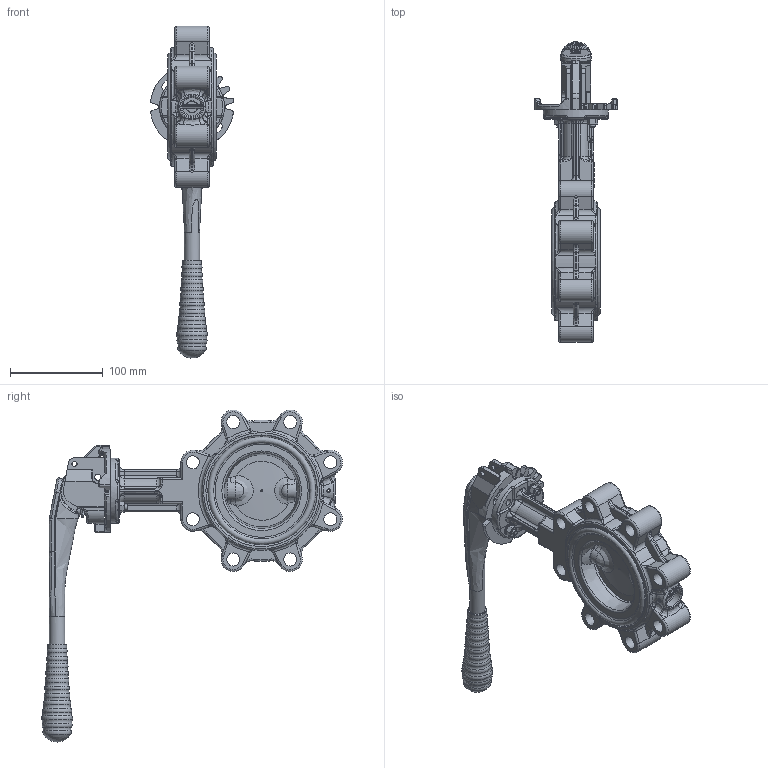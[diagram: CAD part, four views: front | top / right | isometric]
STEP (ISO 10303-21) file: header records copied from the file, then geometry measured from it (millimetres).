
FILE_DESCRIPTION((''),'2;1');
FILE_NAME('K:\Inventor\1 Artikel\10) Absperrklappen\10a) manuell\Chemvalve\844-GGG, CST-L\844-GGG, DN80\844-GGG, DN80, 3D\844-GGG, DN80, PN10-16, HH, 3D.stp','2019-08-13T12:56:05',('claudia'),(''),'Autodesk Inventor 2013','Autodesk Inventor 2013','');
FILE_SCHEMA(('AUTOMOTIVE_DESIGN { 1 0 10303 214 1 1 1 1 }'));
Length unit declared in the file: millimetre
Products named in the file (1): Bauteil30
Bounding box: 89.17 x 323.64 x 357.07 mm (x, y, z)
Surface area: 188088.8 mm2
Topology: 8 solids, 9 shells, 2325 faces, 6052 edges, 3779 vertices
Faces by surface type: plane 783, bspline 766, cylinder 433, torus 237, cone 86, sphere 20
Full cylindrical faces by diameter (mm): 3.85 x1, 4 x2, 4.2 x1, 5 x2, 5.5 x2, 6 x4, 6.3 x2, 6.4 x2, 6.5 x2, 7 x4, 8.9 x2, 9.5 x1, 11.3 x2, 12 x5, 12.75 x2, 14 x8, 16 x2, 16.05 x1, 16.5 x2, 19 x1, 19.8 x1, 20 x1, 20.5 x1, 22 x2, 22.5 x1, 25 x1, 36 x1, 70 x1, 111.793 x2, 116 x2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
Entity records: 101811 total; most frequent: CARTESIAN_POINT 50675, ORIENTED_EDGE 11588, DIRECTION 8454, EDGE_CURVE 5796, VERTEX_POINT 3719, AXIS2_PLACEMENT_3D 3074, EDGE_LOOP 2613, FACE_OUTER_BOUND 2324
